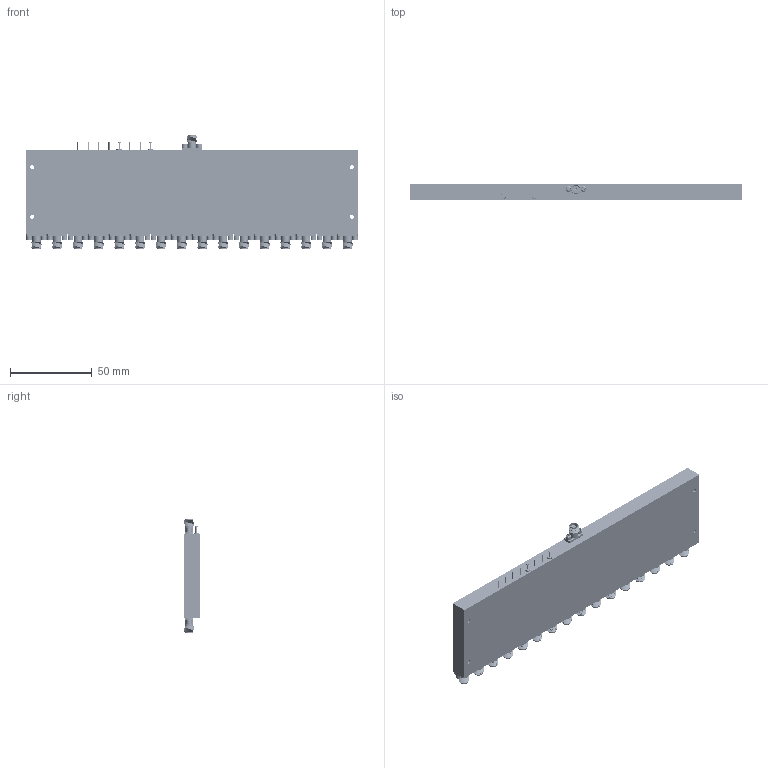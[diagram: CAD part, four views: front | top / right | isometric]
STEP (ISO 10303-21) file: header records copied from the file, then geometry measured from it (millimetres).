
FILE_DESCRIPTION (( 'STEP AP214' ), '1' );
FILE_NAME ('P16T-0R5G18G-60-T-SFF.STEP', '2024-04-17T19:53:39', ( '' ), ( '' ), 'SwSTEP 2.0', 'SolidWorks 2023', '' );
FILE_SCHEMA (( 'AUTOMOTIVE_DESIGN' ));
Length unit declared in the file: inch
Products named in the file (1): P16T-0R5G18G-60-T-SFF
Bounding box: 203.2 x 10.29 x 69.85 mm (x, y, z)
Volume: 110976.1 mm3; surface area: 55386.2 mm2
Topology: 125 solids, 125 shells, 2915 faces, 8130 edges, 5723 vertices
Faces by surface type: plane 1406, cylinder 604, torus 411, cone 218, sphere 218, bspline 58
Full cylindrical faces by diameter (mm): 0.305 x34, 0.559 x17, 0.635 x6, 1.016 x17, 1.067 x2, 1.27 x17, 1.93 x2, 2.184 x36, 2.381 x4, 2.591 x34, 3.302 x17, 3.556 x34, 4.191 x34, 4.597 x17, 5.283 x34
Entity records: 150940 total; most frequent: CARTESIAN_POINT 40160, ORIENTED_EDGE 14308, DIRECTION 14217, EDGE_CURVE 7154, AXIS2_PLACEMENT_3D 5620, VERTEX_POINT 5613, EDGE_LOOP 4115, FACE_OUTER_BOUND 3585
